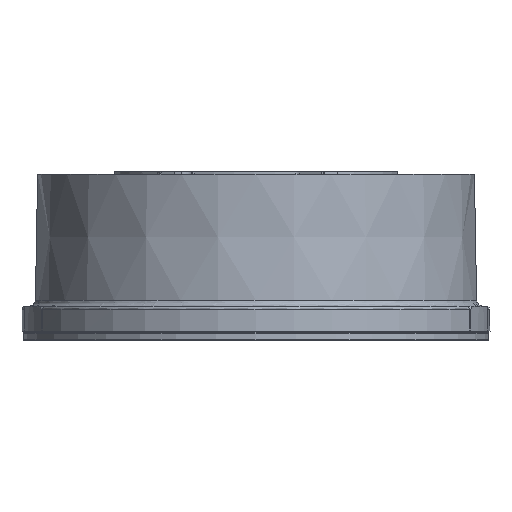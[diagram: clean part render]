
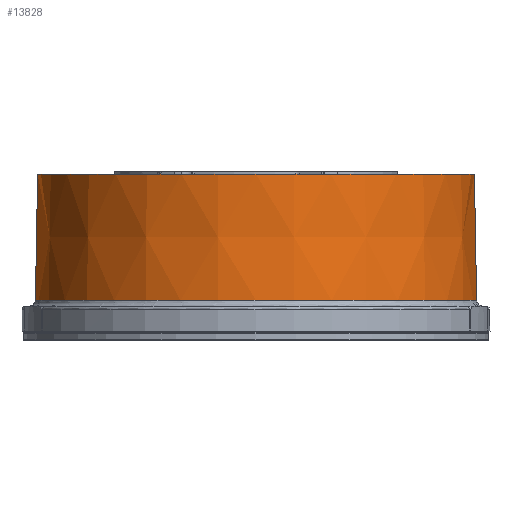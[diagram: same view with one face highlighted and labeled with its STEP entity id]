
A CAD part, front view. The second image highlights one B-rep face of the part: STEP entity #13828.
In plain terms, the highlighted conical face has half-angle 1 degrees and reference radius 194.125 mm.
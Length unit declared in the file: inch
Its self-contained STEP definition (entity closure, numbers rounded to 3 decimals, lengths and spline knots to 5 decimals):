
#459 = CONICAL_SURFACE ( 'NONE', #19067, 7.64271, 0.017 ) ;
#544 = ORIENTED_EDGE ( 'NONE', *, *, #6797, .F. ) ;
#2075 = DIRECTION ( 'NONE',  ( 1., 0., 0. ) ) ;
#2488 = ORIENTED_EDGE ( 'NONE', *, *, #22445, .F. ) ;
#3627 = DIRECTION ( 'NONE',  ( -1., 0., 0. ) ) ;
#5375 = CARTESIAN_POINT ( 'NONE',  ( 7.64271, 0., -11.93257 ) ) ;
#6620 = CARTESIAN_POINT ( 'NONE',  ( 0., 0., -7.55906 ) ) ;
#6797 = EDGE_CURVE ( 'NONE', #23173, #22994, #14172, .T. ) ;
#6910 = EDGE_CURVE ( 'NONE', #23173, #9040, #23024, .T. ) ;
#8398 = FACE_OUTER_BOUND ( 'NONE', #19852, .T. ) ;
#8947 = CARTESIAN_POINT ( 'NONE',  ( 0., 0., -11.93257 ) ) ;
#9040 = VERTEX_POINT ( 'NONE', #22171 ) ;
#13379 = DIRECTION ( 'NONE',  ( -1., 0., 0. ) ) ;
#13828 = ADVANCED_FACE ( 'NONE', ( #8398 ), #459, .F. ) ;
#14172 = CIRCLE ( 'NONE', #28448, 7.56637 ) ;
#14725 = CARTESIAN_POINT ( 'NONE',  ( -7.64271, 0., -11.93257 ) ) ;
#15254 = CARTESIAN_POINT ( 'NONE',  ( 0., 0., -11.93257 ) ) ;
#15595 = VECTOR ( 'NONE', #17022, 39.37008 ) ;
#17022 = DIRECTION ( 'NONE',  ( 0.017, 0., -1. ) ) ;
#17982 = DIRECTION ( 'NONE',  ( 0., 0., -1. ) ) ;
#19067 = AXIS2_PLACEMENT_3D ( 'NONE', #15254, #24340, #3627 ) ;
#19094 = ORIENTED_EDGE ( 'NONE', *, *, #28988, .F. ) ;
#19852 = EDGE_LOOP ( 'NONE', ( #544, #27785, #2488, #19094 ) ) ;
#20563 = CARTESIAN_POINT ( 'NONE',  ( -7.64271, 0., -11.93257 ) ) ;
#21696 = VECTOR ( 'NONE', #23522, 39.37008 ) ;
#22171 = CARTESIAN_POINT ( 'NONE',  ( 7.64271, 0., -11.93257 ) ) ;
#22445 = EDGE_CURVE ( 'NONE', #27775, #9040, #22894, .T. ) ;
#22894 = CIRCLE ( 'NONE', #29093, 7.64271 ) ;
#22994 = VERTEX_POINT ( 'NONE', #27338 ) ;
#23024 = LINE ( 'NONE', #5375, #15595 ) ;
#23173 = VERTEX_POINT ( 'NONE', #26578 ) ;
#23522 = DIRECTION ( 'NONE',  ( -0.017, 0., -1. ) ) ;
#24125 = LINE ( 'NONE', #14725, #21696 ) ;
#24340 = DIRECTION ( 'NONE',  ( 0., 0., -1. ) ) ;
#26578 = CARTESIAN_POINT ( 'NONE',  ( 7.56637, 0., -7.55906 ) ) ;
#27338 = CARTESIAN_POINT ( 'NONE',  ( -7.56637, 0., -7.55906 ) ) ;
#27775 = VERTEX_POINT ( 'NONE', #20563 ) ;
#27785 = ORIENTED_EDGE ( 'NONE', *, *, #6910, .T. ) ;
#28448 = AXIS2_PLACEMENT_3D ( 'NONE', #6620, #17982, #13379 ) ;
#28988 = EDGE_CURVE ( 'NONE', #22994, #27775, #24125, .T. ) ;
#29093 = AXIS2_PLACEMENT_3D ( 'NONE', #8947, #29369, #2075 ) ;
#29369 = DIRECTION ( 'NONE',  ( 0., 0., 1. ) ) ;
